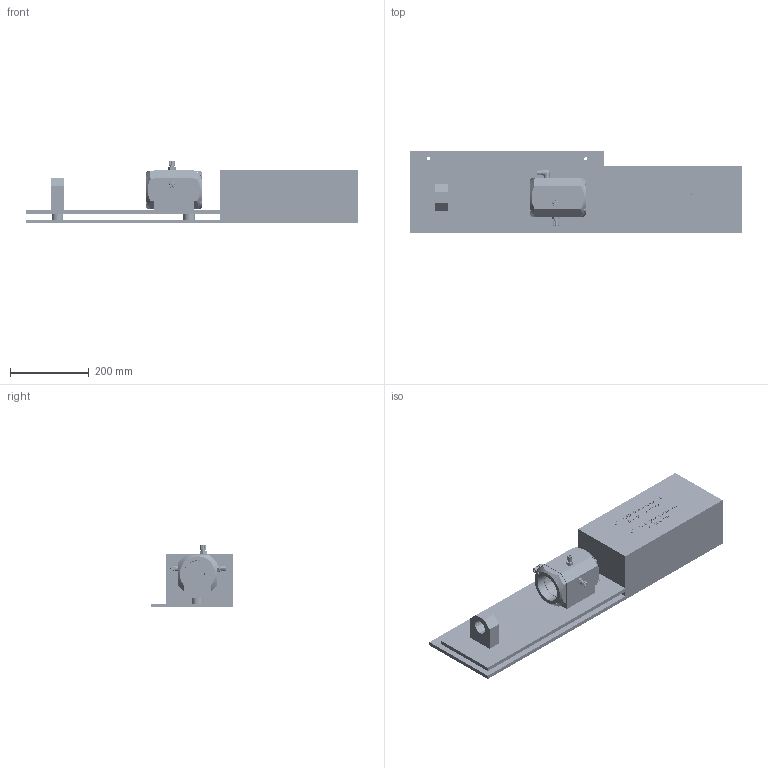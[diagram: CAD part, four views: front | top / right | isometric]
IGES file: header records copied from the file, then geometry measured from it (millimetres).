
Start section: SolidWorks IGES file using analytic representation for surfaces
Global section: file name: C:\Users\aloerke\Desktop\Arbeits-Ordner\Volker\LZX868_TD_00000__001.IGS; native system: SolidWorks 2022; preprocessor: SolidWorks 2022; author: aloerke; date: 230428.085806; units: millimetre
Bounding box: 845 x 210 x 160 mm (x, y, z)
Surface area: 859059.5 mm2 (no closed solid volume)
Topology: 0 solids, 0 shells, 3720 faces, 53668 edges, 53625 vertices
Faces by surface type: bspline 3198, revolution 522
